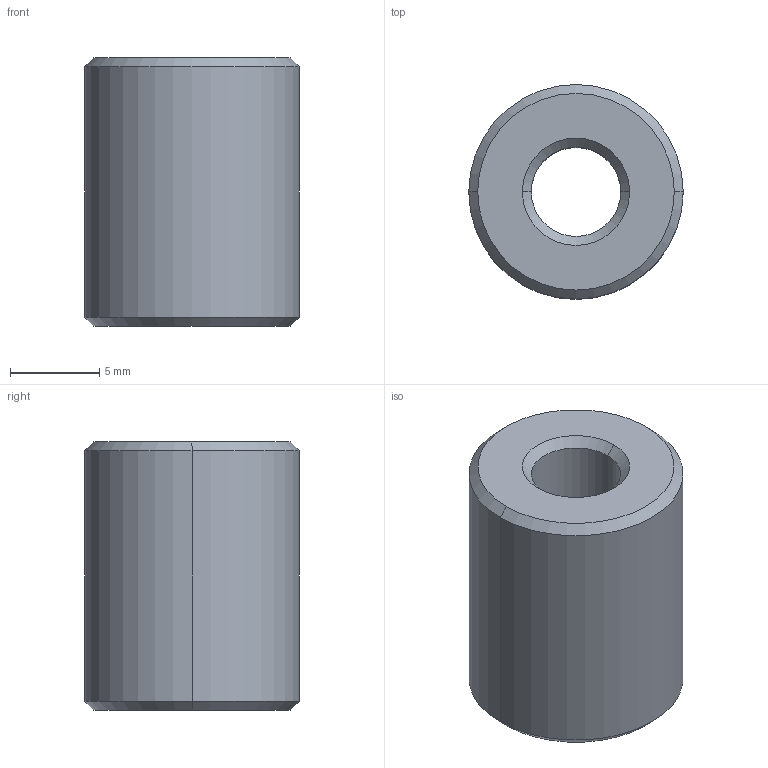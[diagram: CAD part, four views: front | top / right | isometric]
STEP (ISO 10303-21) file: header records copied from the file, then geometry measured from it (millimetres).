
FILE_DESCRIPTION(('STEP AP242'),'1');
FILE_NAME('951-2-g.stp','2023-12-04T09:48:03',('TraceParts'),('TraceParts S.A.'),'Spatial InterOp 3D',' ',' ');
FILE_SCHEMA(('AP242_MANAGED_MODEL_BASED_3D_ENGINEERING_MIM_LF {1 0 10303 442 1 1 4}'));
Length unit declared in the file: millimetre
Products named in the file (1): 951-2-g
Bounding box: 12 x 12 x 15 mm (x, y, z)
Volume: 1388.6 mm3; surface area: 956.7 mm2
Topology: 1 solids, 1 shells, 14 faces, 28 edges, 16 vertices
Faces by surface type: cone 8, cylinder 4, plane 2
Entity records: 393 total; most frequent: DIRECTION 74, CARTESIAN_POINT 59, ORIENTED_EDGE 56, AXIS2_PLACEMENT_3D 31, EDGE_CURVE 28, EDGE_LOOP 16, VERTEX_POINT 16, CIRCLE 16
